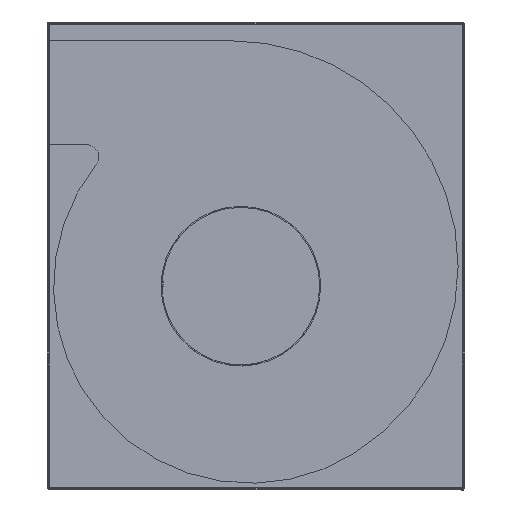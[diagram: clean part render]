
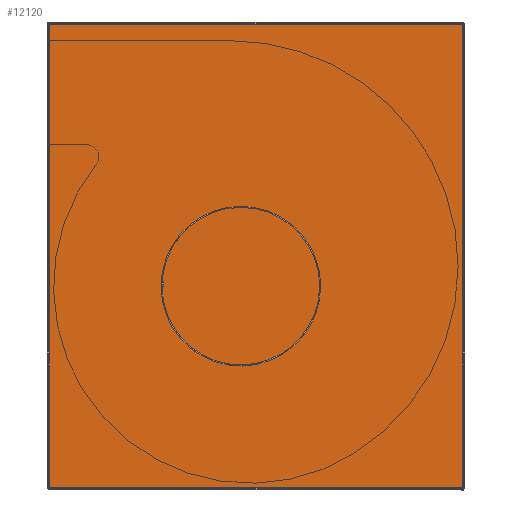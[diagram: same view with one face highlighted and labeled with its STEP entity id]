
A CAD part, top view. The second image highlights one B-rep face of the part: STEP entity #12120.
In plain terms, the highlighted planar face has unit normal (0, 0, 1).
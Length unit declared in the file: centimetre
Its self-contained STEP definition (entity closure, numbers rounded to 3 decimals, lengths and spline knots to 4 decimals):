
#443=CIRCLE('',#12555,7.8);
#445=CIRCLE('',#12559,0.02);
#447=CIRCLE('',#12563,0.14);
#449=CIRCLE('',#12566,7.699);
#451=CIRCLE('',#12570,7.799);
#453=CIRCLE('',#12573,0.04);
#455=CIRCLE('',#12577,0.12);
#457=CIRCLE('',#12580,7.9);
#519=CIRCLE('',#12713,0.15);
#520=CIRCLE('',#12714,0.15);
#521=CIRCLE('',#12715,0.15);
#522=CIRCLE('',#12716,0.15);
#616=FACE_BOUND('',#2186,.T.);
#880=PLANE('',#12712);
#1484=FACE_OUTER_BOUND('',#2185,.T.);
#2185=EDGE_LOOP('',(#10951,#10952,#10953,#10954,#10955,#10956,#10957,#10958));
#2186=EDGE_LOOP('',(#10959,#10960,#10961,#10962,#10963,#10964,#10965,#10966,
#10967,#10968,#10969,#10970));
#2956=LINE('',#22987,#3858);
#2960=LINE('',#22999,#3862);
#2965=LINE('',#23017,#3867);
#2970=LINE('',#23035,#3872);
#3092=LINE('',#25033,#3994);
#3093=LINE('',#25037,#3995);
#3094=LINE('',#25041,#3996);
#3095=LINE('',#25045,#3997);
#3858=VECTOR('',#14229,0.1);
#3862=VECTOR('',#14241,0.0226);
#3867=VECTOR('',#14260,0.1);
#3872=VECTOR('',#14279,0.0226);
#3994=VECTOR('',#14675,45.7764);
#3995=VECTOR('',#14678,40.7764);
#3996=VECTOR('',#14681,45.7764);
#3997=VECTOR('',#14684,40.7764);
#5657=VERTEX_POINT('',#22977);
#5658=VERTEX_POINT('',#22978);
#5661=VERTEX_POINT('',#22986);
#5663=VERTEX_POINT('',#22992);
#5665=VERTEX_POINT('',#22998);
#5667=VERTEX_POINT('',#23004);
#5669=VERTEX_POINT('',#23010);
#5671=VERTEX_POINT('',#23016);
#5673=VERTEX_POINT('',#23022);
#5675=VERTEX_POINT('',#23028);
#5677=VERTEX_POINT('',#23034);
#5679=VERTEX_POINT('',#23040);
#5807=VERTEX_POINT('',#25031);
#5808=VERTEX_POINT('',#25032);
#5809=VERTEX_POINT('',#25034);
#5810=VERTEX_POINT('',#25036);
#5811=VERTEX_POINT('',#25038);
#5812=VERTEX_POINT('',#25040);
#5813=VERTEX_POINT('',#25042);
#5814=VERTEX_POINT('',#25044);
#7305=EDGE_CURVE('',#5657,#5658,#443,.T.);
#7309=EDGE_CURVE('',#5658,#5661,#2956,.T.);
#7312=EDGE_CURVE('',#5663,#5657,#445,.T.);
#7315=EDGE_CURVE('',#5665,#5663,#2960,.T.);
#7318=EDGE_CURVE('',#5667,#5665,#447,.T.);
#7321=EDGE_CURVE('',#5669,#5667,#449,.T.);
#7324=EDGE_CURVE('',#5671,#5669,#2965,.T.);
#7327=EDGE_CURVE('',#5673,#5671,#451,.T.);
#7330=EDGE_CURVE('',#5675,#5673,#453,.T.);
#7333=EDGE_CURVE('',#5677,#5675,#2970,.T.);
#7336=EDGE_CURVE('',#5679,#5677,#455,.T.);
#7339=EDGE_CURVE('',#5661,#5679,#457,.T.);
#7539=EDGE_CURVE('',#5807,#5808,#3092,.T.);
#7540=EDGE_CURVE('',#5809,#5808,#519,.T.);
#7541=EDGE_CURVE('',#5809,#5810,#3093,.T.);
#7542=EDGE_CURVE('',#5811,#5810,#520,.T.);
#7543=EDGE_CURVE('',#5811,#5812,#3094,.T.);
#7544=EDGE_CURVE('',#5813,#5812,#521,.T.);
#7545=EDGE_CURVE('',#5813,#5814,#3095,.T.);
#7546=EDGE_CURVE('',#5807,#5814,#522,.T.);
#10951=ORIENTED_EDGE('',*,*,#7539,.T.);
#10952=ORIENTED_EDGE('',*,*,#7540,.F.);
#10953=ORIENTED_EDGE('',*,*,#7541,.T.);
#10954=ORIENTED_EDGE('',*,*,#7542,.F.);
#10955=ORIENTED_EDGE('',*,*,#7543,.T.);
#10956=ORIENTED_EDGE('',*,*,#7544,.F.);
#10957=ORIENTED_EDGE('',*,*,#7545,.T.);
#10958=ORIENTED_EDGE('',*,*,#7546,.F.);
#10959=ORIENTED_EDGE('',*,*,#7312,.T.);
#10960=ORIENTED_EDGE('',*,*,#7305,.T.);
#10961=ORIENTED_EDGE('',*,*,#7309,.T.);
#10962=ORIENTED_EDGE('',*,*,#7339,.T.);
#10963=ORIENTED_EDGE('',*,*,#7336,.T.);
#10964=ORIENTED_EDGE('',*,*,#7333,.T.);
#10965=ORIENTED_EDGE('',*,*,#7330,.T.);
#10966=ORIENTED_EDGE('',*,*,#7327,.T.);
#10967=ORIENTED_EDGE('',*,*,#7324,.T.);
#10968=ORIENTED_EDGE('',*,*,#7321,.T.);
#10969=ORIENTED_EDGE('',*,*,#7318,.T.);
#10970=ORIENTED_EDGE('',*,*,#7315,.T.);
#12120=ADVANCED_FACE('',(#1484,#616),#880,.F.);
#12555=AXIS2_PLACEMENT_3D('',#22979,#14221,#14222);
#12559=AXIS2_PLACEMENT_3D('',#22993,#14234,#14235);
#12563=AXIS2_PLACEMENT_3D('',#23005,#14246,#14247);
#12566=AXIS2_PLACEMENT_3D('',#23011,#14253,#14254);
#12570=AXIS2_PLACEMENT_3D('',#23023,#14265,#14266);
#12573=AXIS2_PLACEMENT_3D('',#23029,#14272,#14273);
#12577=AXIS2_PLACEMENT_3D('',#23041,#14284,#14285);
#12580=AXIS2_PLACEMENT_3D('',#23046,#14291,#14292);
#12712=AXIS2_PLACEMENT_3D('',#25030,#14673,#14674);
#12713=AXIS2_PLACEMENT_3D('',#25035,#14676,#14677);
#12714=AXIS2_PLACEMENT_3D('',#25039,#14679,#14680);
#12715=AXIS2_PLACEMENT_3D('',#25043,#14682,#14683);
#12716=AXIS2_PLACEMENT_3D('',#25046,#14685,#14686);
#14221=DIRECTION('center_axis',(0.,0.,
1.));
#14222=DIRECTION('ref_axis',(1.,0.019,0.));
#14229=DIRECTION('',(-1.,0.,0.));
#14234=DIRECTION('center_axis',(0.,0.,
1.));
#14235=DIRECTION('ref_axis',(0.5,-0.866,0.));
#14241=DIRECTION('',(-0.866,-0.5,0.));
#14246=DIRECTION('center_axis',(0.,0.,
-1.));
#14247=DIRECTION('ref_axis',(0.5,-0.866,0.));
#14253=DIRECTION('center_axis',(0.,0.,
1.));
#14254=DIRECTION('ref_axis',(0.998,-0.064,0.));
#14260=DIRECTION('',(0.999,-0.047,0.));
#14265=DIRECTION('center_axis',(0.,0.,
-1.));
#14266=DIRECTION('ref_axis',(-0.998,0.064,0.));
#14272=DIRECTION('center_axis',(0.,0.,
1.));
#14273=DIRECTION('ref_axis',(-0.5,0.866,0.));
#14279=DIRECTION('',(0.866,0.5,0.));
#14284=DIRECTION('center_axis',(0.,0.,
-1.));
#14285=DIRECTION('ref_axis',(-0.5,0.866,0.));
#14291=DIRECTION('center_axis',(0.,0.,
-1.));
#14292=DIRECTION('ref_axis',(-1.,-0.019,0.));
#14673=DIRECTION('center_axis',(0.,0.,
-1.));
#14674=DIRECTION('ref_axis',(1.,0.,0.));
#14675=DIRECTION('',(0.,1.,0.));
#14676=DIRECTION('center_axis',(0.,0.,
1.));
#14677=DIRECTION('ref_axis',(0.,-1.,0.));
#14678=DIRECTION('',(-1.,0.,0.));
#14679=DIRECTION('center_axis',(0.,0.,
1.));
#14680=DIRECTION('ref_axis',(1.,0.,0.));
#14681=DIRECTION('',(0.,-1.,0.));
#14682=DIRECTION('center_axis',(0.,0.,
1.));
#14683=DIRECTION('ref_axis',(0.,1.,0.));
#14684=DIRECTION('',(1.,0.,0.));
#14685=DIRECTION('center_axis',(0.,0.,
1.));
#14686=DIRECTION('ref_axis',(-1.,0.,0.));
#22977=CARTESIAN_POINT('',(-7.7986,-0.1502,11.3));
#22978=CARTESIAN_POINT('',(-7.8,0.,11.3));
#22979=CARTESIAN_POINT('Origin',(0.,0.,
11.3));
#22986=CARTESIAN_POINT('',(-7.9,0.,11.3));
#22987=CARTESIAN_POINT('',(6.1839,0.,11.3));
#22992=CARTESIAN_POINT('',(-7.7886,-0.1325,11.3));
#22993=CARTESIAN_POINT('Origin',(-7.7786,-0.1499,11.3));
#22998=CARTESIAN_POINT('',(-7.769,-0.1212,11.3));
#22999=CARTESIAN_POINT('',(1.5697,5.2704,11.3));
#23004=CARTESIAN_POINT('',(-7.699,0.,11.3));
#23005=CARTESIAN_POINT('Origin',(-7.839,0.,
11.3));
#23010=CARTESIAN_POINT('',(-7.6831,0.4953,11.3));
#23011=CARTESIAN_POINT('Origin',(0.,0.,
11.3));
#23016=CARTESIAN_POINT('',(-7.783,0.5,11.3));
#23017=CARTESIAN_POINT('',(6.3487,-0.1675,11.3));
#23022=CARTESIAN_POINT('',(-7.799,0.,11.3));
#23023=CARTESIAN_POINT('Origin',(0.,0.,
11.3));
#23028=CARTESIAN_POINT('',(-7.819,-0.0346,11.3));
#23029=CARTESIAN_POINT('Origin',(-7.839,0.,
11.3));
#23034=CARTESIAN_POINT('',(-7.8386,-0.0459,11.3));
#23035=CARTESIAN_POINT('',(1.5295,5.3627,11.3));
#23040=CARTESIAN_POINT('',(-7.8985,-0.1522,11.3));
#23041=CARTESIAN_POINT('Origin',(-7.7786,-0.1499,11.3));
#23046=CARTESIAN_POINT('Origin',(0.,0.,
11.3));
#25030=CARTESIAN_POINT('Origin',(20.1678,-5.3305,11.3));
#25031=CARTESIAN_POINT('',(21.9,-19.8882,11.3));
#25032=CARTESIAN_POINT('',(21.9,25.8882,11.3));
#25033=CARTESIAN_POINT('',(21.9,14.4441,11.3));
#25034=CARTESIAN_POINT('',(21.8882,25.9,11.3));
#25035=CARTESIAN_POINT('Origin',(22.,26.,11.3));
#25036=CARTESIAN_POINT('',(-18.8882,25.9,11.3));
#25037=CARTESIAN_POINT('',(-8.6941,25.9,11.3));
#25038=CARTESIAN_POINT('',(-18.9,25.8882,11.3));
#25039=CARTESIAN_POINT('Origin',(-19.,26.,11.3));
#25040=CARTESIAN_POINT('',(-18.9,-19.8882,11.3));
#25041=CARTESIAN_POINT('',(-18.9,-8.4441,11.3));
#25042=CARTESIAN_POINT('',(-18.8882,-19.9,11.3));
#25043=CARTESIAN_POINT('Origin',(-19.,-20.,11.3));
#25044=CARTESIAN_POINT('',(21.8882,-19.9,11.3));
#25045=CARTESIAN_POINT('',(11.6941,-19.9,11.3));
#25046=CARTESIAN_POINT('Origin',(22.,-20.,11.3));
